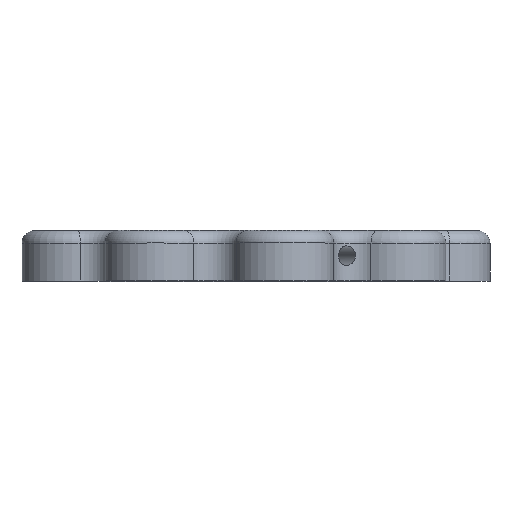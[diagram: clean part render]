
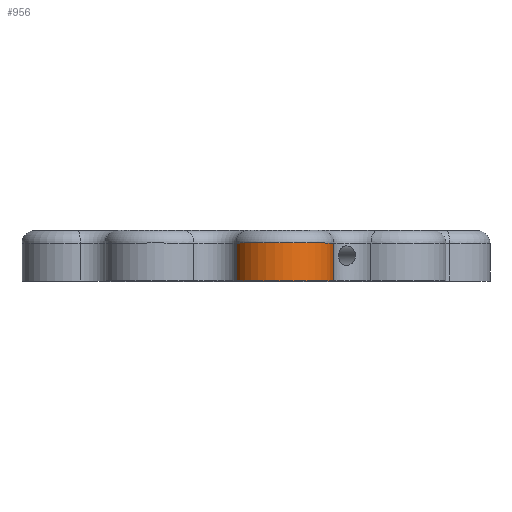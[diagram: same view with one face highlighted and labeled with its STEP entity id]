
A CAD part, top view. The second image highlights one B-rep face of the part: STEP entity #956.
In plain terms, the highlighted cylindrical face has radius 6.35 mm (diameter 12.7 mm), a partial arc.
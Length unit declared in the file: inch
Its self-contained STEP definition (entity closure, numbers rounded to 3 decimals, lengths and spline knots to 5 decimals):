
#17=LINE('',#1817,#35);
#18=LINE('',#1856,#36);
#35=VECTOR('',#1418,0.1875);
#36=VECTOR('',#1423,0.1875);
#127=CYLINDRICAL_SURFACE('',#1112,0.25);
#186=FACE_OUTER_BOUND('',#270,.T.);
#270=EDGE_LOOP('',(#806,#807,#808,#809));
#387=CIRCLE('',#1093,0.25);
#399=CIRCLE('',#1113,0.25);
#477=VERTEX_POINT('',#1784);
#478=VERTEX_POINT('',#1788);
#485=VERTEX_POINT('',#1816);
#487=VERTEX_POINT('',#1855);
#589=EDGE_CURVE('',#478,#477,#387,.T.);
#602=EDGE_CURVE('',#477,#485,#17,.T.);
#605=EDGE_CURVE('',#487,#478,#18,.T.);
#606=EDGE_CURVE('',#485,#487,#399,.T.);
#806=ORIENTED_EDGE('',*,*,#589,.F.);
#807=ORIENTED_EDGE('',*,*,#605,.F.);
#808=ORIENTED_EDGE('',*,*,#606,.F.);
#809=ORIENTED_EDGE('',*,*,#602,.F.);
#956=ADVANCED_FACE('',(#186),#127,.T.);
#1093=AXIS2_PLACEMENT_3D('',#1790,#1380,#1381);
#1112=AXIS2_PLACEMENT_3D('',#1854,#1421,#1422);
#1113=AXIS2_PLACEMENT_3D('',#1857,#1424,#1425);
#1380=DIRECTION('center_axis',(0.,1.,0.));
#1381=DIRECTION('ref_axis',(0.174,0.,0.985));
#1418=DIRECTION('',(0.,-1.,0.));
#1421=DIRECTION('center_axis',(0.,1.,0.));
#1422=DIRECTION('ref_axis',(0.174,0.,0.985));
#1423=DIRECTION('',(0.,1.,0.));
#1424=DIRECTION('center_axis',(0.,-1.,0.));
#1425=DIRECTION('ref_axis',(0.174,0.,0.985));
#1784=CARTESIAN_POINT('',(0.41274,0.1875,0.92864));
#1788=CARTESIAN_POINT('',(-0.07023,0.1875,1.0138));
#1790=CARTESIAN_POINT('Origin',(0.1628,0.1875,0.92326));
#1816=CARTESIAN_POINT('',(0.41274,0.,0.92864));
#1817=CARTESIAN_POINT('',(0.41274,0.,0.92864));
#1854=CARTESIAN_POINT('Origin',(0.1628,0.,0.92326));
#1855=CARTESIAN_POINT('',(-0.07023,0.,1.0138));
#1856=CARTESIAN_POINT('',(-0.07023,0.,1.0138));
#1857=CARTESIAN_POINT('Origin',(0.1628,0.,0.92326));
